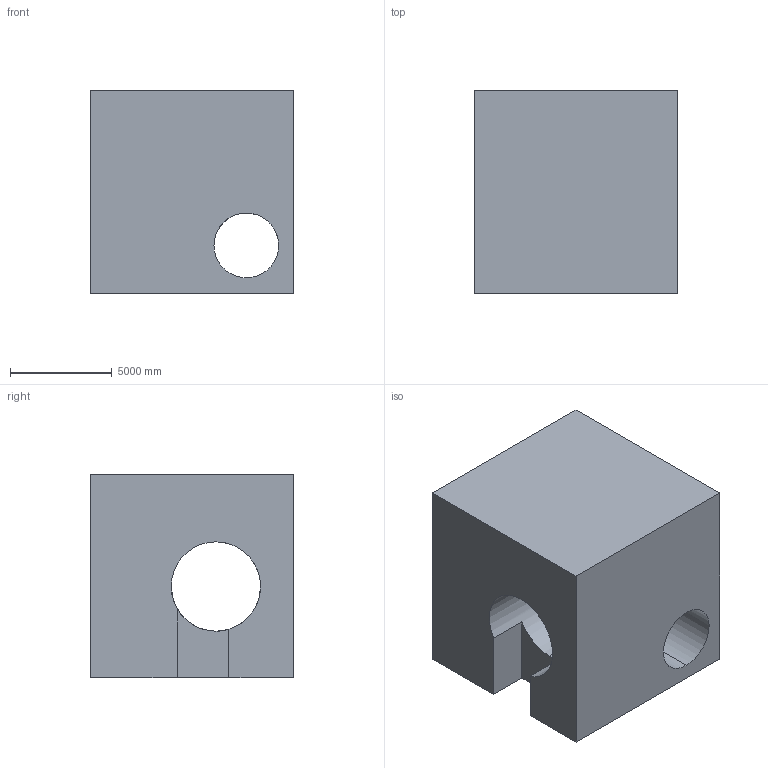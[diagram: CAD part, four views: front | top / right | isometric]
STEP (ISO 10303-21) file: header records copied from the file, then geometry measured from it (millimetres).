
FILE_DESCRIPTION (( 'STEP AP203' ), '1' );
FILE_NAME ('49.STEP', '2022-08-31T11:17:30', ( 'user' ), ( '' ), 'SwSTEP 2.0', 'SolidWorks 2021', '' );
FILE_SCHEMA (( 'CONFIG_CONTROL_DESIGN' ));
Length unit declared in the file: centimetre
Products named in the file (1): 49
Bounding box: 10000 x 10000 x 10000 mm (x, y, z)
Volume: 768686109123.1 mm3; surface area: 758029816.7 mm2
Topology: 1 solids, 1 shells, 13 faces, 42 edges, 28 vertices
Faces by surface type: plane 9, cylinder 4
Entity records: 966 total; most frequent: CARTESIAN_POINT 503, ORIENTED_EDGE 84, DIRECTION 76, EDGE_CURVE 42, VERTEX_POINT 28, VECTOR 28, LINE 28, AXIS2_PLACEMENT_3D 24
